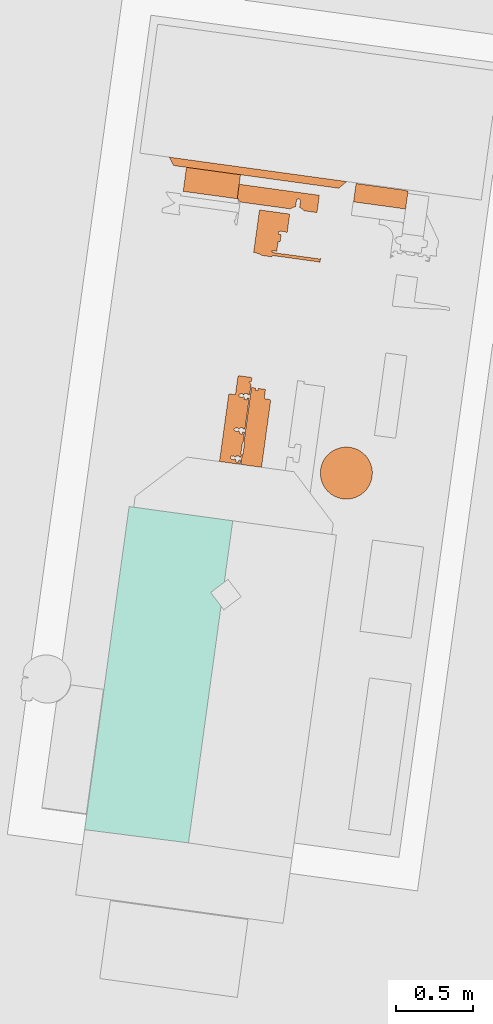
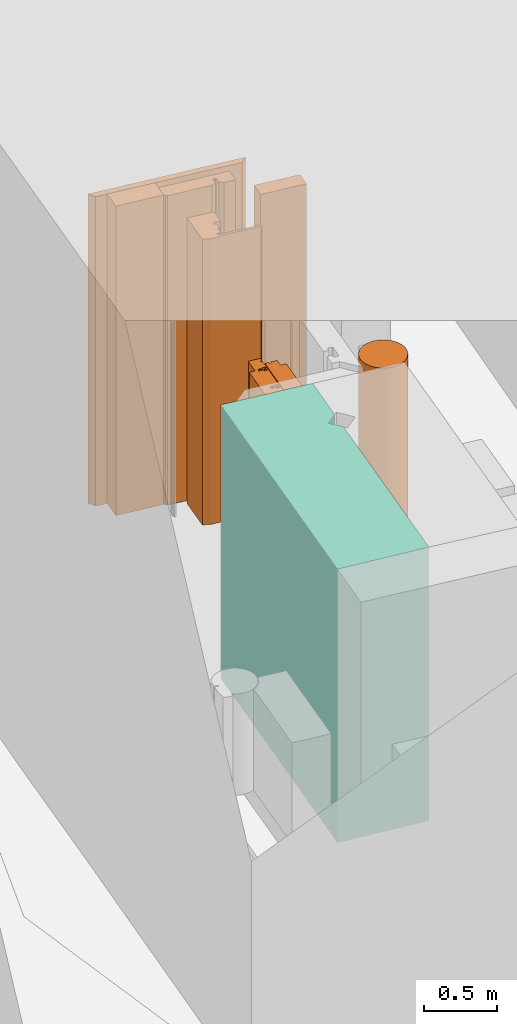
# Not in any storey, part 52 of 75: 8 proxies, plus 1 element that does not belong to this part.
"""IFC4 model written with IfcOpenShell, lengths in metres."""

from ifc_helpers import new_model, si_unit, direction, origin_with_axes, place, context, subcontext, project, spatial, triangles, element, aggregate, save


model = new_model("IFC4")

# Units and contexts
model_context = context("Model", 3, precision=1e-05, world=origin_with_axes(), true_north=direction((0.0, 1.0)))
body_context = subcontext(model_context, "Body", "Model", "MODEL_VIEW")
ifc_project = project(units=[si_unit("AREAUNIT", "SQUARE_METRE"), si_unit("VOLUMEUNIT", "CUBIC_METRE"), si_unit("LENGTHUNIT", "METRE")], contexts=[model_context])

# Site
site_placement = place(None, origin_with_axes())
site = spatial("IfcSite", under=ifc_project, at=site_placement, Name="Parcela industrial Jinhong")

# Compressor, proxies
compressor_placement = place(site_placement, origin_with_axes())
compressor = element("IfcCompressor", 1, at=compressor_placement, inside=site, Name="Compresor de aire AC1001B · Carcasa principal · región CAD 1", ObjectType="Envolvente de equipo", PredefinedType="USERDEFINED", context=body_context, shape_type="Tessellation", body=[
    triangles([(55.863177, 72.357937, 3.95), (55.187335, 72.450855, 3.95), (55.808192, 71.957999, 3.95), (55.187335, 72.450855, 1.65), (55.863177, 72.357937, 1.65), (55.808192, 71.957999, 1.65), (54.897683, 70.344073, 3.95), (55.574466, 70.257991, 3.95), (55.574466, 70.257991, 1.65), (54.897683, 70.344073, 1.65), (55.719055, 71.89041, 3.95), (55.786644, 71.801273, 3.95), (55.786644, 71.801273, 1.65), (55.719055, 71.89041, 1.65)], [[1, 2, 3], [4, 5, 6], [2, 7, 8], [9, 10, 4], [8, 12, 11], [13, 9, 14], [3, 2, 11], [4, 6, 14], [2, 8, 11], [14, 9, 4], [4, 10, 7], [4, 7, 2], [10, 9, 8], [10, 8, 7], [9, 13, 12], [9, 12, 8], [11, 13, 14], [11, 12, 13], [14, 6, 3], [14, 3, 11], [6, 5, 1], [1, 3, 6], [5, 4, 2], [5, 2, 1]], closed=True),
])
proxy_1_placement = place(compressor_placement, origin_with_axes())
proxy_1 = element("IfcBuildingElementProxy", 2, at=proxy_1_placement, Name="Compresor de aire AC1001B · Cuerpo de equipo · región CAD 14", context=body_context, shape_type="Tessellation", body=[
    triangles([(55.978528, 73.266694, 3.55), (55.971008, 73.263388, 3.55), (55.978052, 73.263227, 3.55), (55.971008, 73.263388, 1.65), (55.978528, 73.266694, 1.65), (55.978052, 73.263227, 1.65), (55.988442, 73.288144, 3.55), (55.979444, 73.267477, 3.55), (55.985487, 73.266646, 3.55), (55.988442, 73.288144, 1.65), (55.985487, 73.266646, 1.65), (55.979444, 73.267477, 1.65), (55.984768, 73.29299, 3.55), (55.904622, 73.304008, 3.55), (55.987551, 73.288267, 3.55), (55.904622, 73.304008, 1.65), (55.984768, 73.29299, 1.65), (55.987551, 73.288267, 1.65), (55.898324, 73.30225, 3.55), (55.897201, 73.300688, 3.55), (55.897201, 73.300688, 1.65), (55.898324, 73.30225, 1.65), (55.880625, 73.180123, 3.55), (55.844465, 73.185094, 3.55), (55.839082, 73.184118, 3.55), (55.839082, 73.184118, 1.65), (55.844465, 73.185094, 1.65), (55.880625, 73.180123, 1.65), (55.837067, 73.182679, 3.55), (55.77681, 72.744402, 3.55), (55.77681, 72.744402, 1.65), (55.837067, 73.182679, 1.65), (55.914811, 72.752582, 3.55), (55.905399, 72.753876, 3.55), (55.911147, 72.725933, 3.55), (55.905399, 72.753876, 1.65), (55.914811, 72.752582, 1.65), (55.911147, 72.725933, 1.65), (55.905168, 72.752192, 3.55), (55.9017, 72.752668, 3.55), (55.900038, 72.740582, 3.55), (55.9017, 72.752668, 1.65), (55.905168, 72.752192, 1.65), (55.900038, 72.740582, 1.65), (55.883571, 72.755161, 3.55), (55.879542, 72.757431, 3.55), (55.881909, 72.743075, 3.55), (55.879542, 72.757431, 1.65), (55.883571, 72.755161, 1.65), (55.881909, 72.743075, 1.65), (55.880019, 72.760898, 3.55), (55.873393, 72.761809, 3.55), (55.873393, 72.761809, 1.65), (55.880019, 72.760898, 1.65), (55.862733, 72.75631, 3.55), (55.858045, 72.760386, 3.55), (55.852001, 72.761217, 3.55), (55.852001, 72.761217, 1.65), (55.858045, 72.760386, 1.65), (55.862733, 72.75631, 1.65), (55.862575, 72.78086, 3.55), (55.854494, 72.779347, 3.55), (55.860537, 72.778516, 3.55), (55.854494, 72.779347, 1.65), (55.862575, 72.78086, 1.65), (55.860537, 72.778516, 1.65), (55.881681, 72.772984, 3.55), (55.872086, 72.779553, 3.55), (55.874746, 72.773938, 3.55), (55.872086, 72.779553, 1.65), (55.881681, 72.772984, 1.65), (55.874746, 72.773938, 1.65), (55.887357, 72.782702, 3.55), (55.882266, 72.777244, 3.55), (55.886526, 72.776659, 3.55), (55.887357, 72.782702, 1.65), (55.886526, 72.776659, 1.65), (55.882266, 72.777244, 1.65), (55.905487, 72.780209, 3.55), (55.904656, 72.774166, 3.55), (55.908123, 72.773689, 3.55), (55.905487, 72.780209, 1.65), (55.908123, 72.773689, 1.65), (55.904656, 72.774166, 1.65), (55.917426, 72.771603, 3.55), (55.908014, 72.772897, 3.55), (55.908014, 72.772897, 1.65), (55.917426, 72.771603, 1.65), (55.920136, 72.791318, 3.55), (55.915876, 72.791903, 3.55), (55.915876, 72.791903, 1.65), (55.920136, 72.791318, 1.65), (55.940022, 72.935957, 3.55), (55.926773, 72.871158, 3.55), (55.931032, 72.870572, 3.55), (55.940022, 72.935957, 1.65), (55.931032, 72.870572, 1.65), (55.926773, 72.871158, 1.65), (55.93061, 72.937251, 3.55), (55.926911, 72.936043, 3.55), (55.926911, 72.936043, 1.65), (55.93061, 72.937251, 1.65), (55.908782, 72.938536, 3.55), (55.904754, 72.940806, 3.55), (55.90712, 72.92645, 3.55), (55.904754, 72.940806, 1.65), (55.908782, 72.938536, 1.65), (55.90712, 72.92645, 1.65), (55.90523, 72.944273, 3.55), (55.89857, 72.945189, 3.55), (55.89857, 72.945189, 1.65), (55.90523, 72.944273, 1.65), (55.887944, 72.939685, 3.55), (55.883256, 72.943761, 3.55), (55.877213, 72.944592, 3.55), (55.877213, 72.944592, 1.65), (55.883256, 72.943761, 1.65), (55.887944, 72.939685, 1.65), (55.887787, 72.964235, 3.55), (55.879705, 72.962722, 3.55), (55.885748, 72.961891, 3.55), (55.879705, 72.962722, 1.65), (55.887787, 72.964235, 1.65), (55.885748, 72.961891, 1.65), (55.906892, 72.95636, 3.55), (55.897297, 72.962928, 3.55), (55.899957, 72.957313, 3.55), (55.897297, 72.962928, 1.65), (55.906892, 72.95636, 1.65), (55.899957, 72.957313, 1.65), (55.912569, 72.966077, 3.55), (55.907478, 72.960619, 3.55), (55.911738, 72.960034, 3.55), (55.912569, 72.966077, 1.65), (55.911738, 72.960034, 1.65), (55.907478, 72.960619, 1.65), (55.930698, 72.963584, 3.55), (55.929867, 72.957541, 3.55), (55.933335, 72.957065, 3.55), (55.930698, 72.963584, 1.65), (55.933335, 72.957065, 1.65), (55.929867, 72.957541, 1.65), (55.942637, 72.954978, 3.55), (55.933226, 72.956272, 3.55), (55.933226, 72.956272, 1.65), (55.942637, 72.954978, 1.65), (55.970681, 73.158959, 3.55), (55.96127, 73.160253, 3.55), (55.96127, 73.160253, 1.65), (55.970681, 73.158959, 1.65), (55.957571, 73.159046, 3.55), (55.955909, 73.146959, 3.55), (55.955909, 73.146959, 1.65), (55.957571, 73.159046, 1.65), (55.939442, 73.161538, 3.55), (55.935413, 73.163808, 3.55), (55.93778, 73.149452, 3.55), (55.935413, 73.163808, 1.65), (55.939442, 73.161538, 1.65), (55.93778, 73.149452, 1.65), (55.935767, 73.166384, 3.55), (55.929107, 73.1673, 3.55), (55.929107, 73.1673, 1.65), (55.935767, 73.166384, 1.65), (55.914599, 73.165862, 3.55), (55.908556, 73.166693, 3.55), (55.915245, 73.163956, 3.55), (55.908556, 73.166693, 1.65), (55.914599, 73.165862, 1.65), (55.915245, 73.163956, 1.65), (55.908665, 73.167486, 3.55), (55.906089, 73.16784, 3.55), (55.906089, 73.16784, 1.65), (55.908665, 73.167486, 1.65), (55.917323, 73.185676, 3.55), (55.910242, 73.184832, 3.55), (55.9172, 73.184784, 3.55), (55.910242, 73.184832, 1.65), (55.917323, 73.185676, 1.65), (55.9172, 73.184784, 1.65), (55.937429, 73.17847, 3.55), (55.927834, 73.185038, 3.55), (55.930494, 73.179424, 3.55), (55.927834, 73.185038, 1.65), (55.937429, 73.17847, 1.65), (55.930494, 73.179424, 1.65), (55.943228, 73.189079, 3.55), (55.938137, 73.183622, 3.55), (55.942397, 73.183036, 3.55), (55.943228, 73.189079, 1.65), (55.942397, 73.183036, 1.65), (55.938137, 73.183622, 1.65), (55.961357, 73.186587, 3.55), (55.960527, 73.180543, 3.55), (55.963994, 73.180067, 3.55), (55.961357, 73.186587, 1.65), (55.963994, 73.180067, 1.65), (55.960527, 73.180543, 1.65), (55.973174, 73.177089, 3.55), (55.963762, 73.178383, 3.55), (55.963762, 73.178383, 1.65), (55.973174, 73.177089, 1.65), (55.980161, 73.227911, 3.55), (55.974118, 73.228741, 3.55), (55.974118, 73.228741, 1.65), (55.980161, 73.227911, 1.65), (55.983702, 73.253668, 3.55), (55.974227, 73.229534, 3.55), (55.98027, 73.228703, 3.55), (55.983702, 73.253668, 1.65), (55.98027, 73.228703, 1.65), (55.974227, 73.229534, 1.65), (55.982811, 73.253791, 3.55), (55.982457, 73.251215, 3.55), (55.982457, 73.251215, 1.65), (55.982811, 73.253791, 1.65), (55.976989, 73.2555, 3.55), (55.974414, 73.255854, 3.55), (55.976635, 73.252924, 3.55), (55.974414, 73.255854, 1.65), (55.976989, 73.2555, 1.65), (55.976635, 73.252924, 1.65), (55.918481, 73.161796, 3.55), (55.918481, 73.161796, 1.65), (55.922036, 73.187652, 3.55), (55.922036, 73.187652, 1.65), (55.925404, 73.187189, 3.55), (55.925404, 73.187189, 1.65), (55.977305, 73.251923, 3.55), (55.977305, 73.251923, 1.65), (55.871938, 72.759385, 3.55), (55.871938, 72.759385, 1.65), (55.867958, 72.781836, 3.55), (55.867958, 72.781836, 1.65), (55.897149, 72.94276, 3.55), (55.897149, 72.94276, 1.65), (55.89317, 72.965211, 3.55), (55.89317, 72.965211, 1.65), (55.927686, 73.16487, 3.55), (55.927686, 73.16487, 1.65), (55.971178, 73.258015, 3.55), (55.971178, 73.258015, 1.65), (55.869008, 72.757163, 3.55), (55.869008, 72.757163, 1.65), (55.92525, 72.923957, 3.55), (55.92525, 72.923957, 1.65), (55.894219, 72.940538, 3.55), (55.894219, 72.940538, 1.65), (55.924756, 73.162649, 3.55), (55.924756, 73.162649, 1.65), (55.970409, 73.259029, 3.55), (55.970409, 73.259029, 1.65), (55.865309, 72.755956, 3.55), (55.865309, 72.755956, 1.65), (55.89052, 72.939331, 3.55), (55.89052, 72.939331, 1.65), (55.921057, 73.161441, 3.55), (55.921057, 73.161441, 1.65), (55.874992, 72.960745, 3.55), (55.874992, 72.960745, 1.65), (55.905529, 73.182856, 3.55), (55.905529, 73.182856, 1.65), (55.850341, 72.762354, 3.55), (55.850341, 72.762354, 1.65), (55.849781, 72.77737, 3.55), (55.849781, 72.77737, 1.65), (55.848119, 72.765284, 3.55), (55.848119, 72.765284, 1.65), (55.847266, 72.771559, 3.55), (55.847266, 72.771559, 1.65), (55.872477, 72.954934, 3.55), (55.872477, 72.954934, 1.65), (55.903014, 73.177044, 3.55), (55.903014, 73.177044, 1.65), (55.903867, 73.17077, 3.55), (55.903867, 73.17077, 1.65), (55.873221, 72.947866, 3.55), (55.873221, 72.947866, 1.65)], [[1, 2, 3], [4, 5, 6], [7, 8, 9], [10, 11, 12], [13, 14, 15], [16, 17, 18], [14, 19, 20], [21, 22, 16], [23, 24, 25], [26, 27, 28], [25, 29, 30], [31, 32, 26], [33, 34, 35], [36, 37, 38], [39, 40, 41], [42, 43, 44], [45, 46, 47], [48, 49, 50], [46, 51, 52], [53, 54, 48], [55, 56, 57], [58, 59, 60], [61, 62, 63], [64, 65, 66], [67, 68, 69], [70, 71, 72], [73, 74, 75], [76, 77, 78], [79, 80, 81], [82, 83, 84], [86, 85, 81], [87, 83, 88], [85, 89, 90], [91, 92, 88], [93, 94, 95], [96, 97, 98], [93, 99, 100], [101, 102, 96], [103, 104, 105], [106, 107, 108], [104, 109, 110], [111, 112, 106], [113, 114, 115], [116, 117, 118], [119, 120, 121], [122, 123, 124], [125, 126, 127], [128, 129, 130], [131, 132, 133], [134, 135, 136], [137, 138, 139], [140, 141, 142], [144, 143, 139], [145, 141, 146], [143, 147, 148], [149, 150, 146], [148, 151, 152], [153, 154, 149], [155, 156, 157], [158, 159, 160], [156, 161, 162], [163, 164, 158], [165, 166, 167], [168, 169, 170], [166, 171, 172], [173, 174, 168], [175, 176, 177], [178, 179, 180], [181, 182, 183], [184, 185, 186], [187, 188, 189], [190, 191, 192], [193, 194, 195], [196, 197, 198], [200, 199, 195], [201, 197, 202], [199, 203, 204], [205, 206, 202], [207, 208, 209], [210, 211, 212], [207, 213, 214], [215, 216, 210], [217, 218, 219], [220, 221, 222], [8, 2, 1], [5, 4, 12], [8, 7, 15], [12, 18, 10], [15, 14, 20], [21, 16, 18], [23, 25, 30], [31, 26, 28], [39, 35, 34], [43, 36, 38], [47, 46, 52], [50, 53, 48], [74, 68, 67], [71, 70, 78], [81, 85, 79], [83, 82, 88], [94, 93, 100], [98, 101, 96], [105, 104, 110], [108, 111, 106], [132, 126, 125], [129, 128, 136], [139, 143, 137], [141, 140, 146], [143, 148, 152], [153, 149, 146], [157, 156, 162], [160, 163, 158], [167, 166, 223], [170, 224, 168], [225, 176, 175], [179, 178, 226], [182, 181, 227], [228, 185, 184], [195, 199, 193], [197, 196, 202], [214, 208, 207], [215, 210, 212], [219, 218, 229], [222, 230, 220], [2, 8, 15], [18, 12, 4], [15, 20, 23], [28, 21, 18], [41, 35, 39], [38, 44, 43], [231, 47, 52], [50, 232, 53], [74, 233, 68], [70, 234, 78], [79, 85, 90], [91, 88, 82], [94, 100, 90], [98, 91, 101], [235, 105, 110], [108, 236, 111], [132, 237, 126], [128, 238, 136], [137, 143, 152], [153, 146, 140], [239, 157, 162], [160, 240, 163], [172, 223, 166], [168, 224, 173], [188, 227, 181], [185, 228, 192], [193, 199, 204], [205, 202, 196], [208, 214, 229], [230, 215, 212], [218, 241, 229], [230, 242, 220], [2, 15, 23], [28, 18, 4], [35, 41, 30], [38, 31, 44], [47, 231, 243], [244, 232, 50], [74, 73, 233], [78, 234, 76], [79, 90, 73], [82, 76, 91], [90, 100, 245], [246, 101, 91], [105, 235, 247], [248, 236, 108], [132, 131, 237], [136, 238, 134], [131, 137, 152], [153, 140, 134], [157, 239, 249], [250, 240, 160], [188, 187, 227], [192, 228, 190], [187, 193, 204], [205, 196, 190], [208, 229, 241], [242, 230, 212], [251, 2, 23], [28, 4, 252], [41, 47, 30], [31, 50, 44], [47, 243, 253], [254, 244, 50], [90, 233, 73], [76, 234, 91], [90, 245, 105], [108, 246, 91], [105, 247, 255], [256, 248, 108], [237, 131, 152], [134, 238, 153], [157, 249, 257], [258, 250, 160], [227, 187, 225], [226, 190, 228], [204, 208, 187], [205, 190, 212], [241, 251, 208], [242, 212, 252], [47, 253, 30], [31, 254, 50], [90, 61, 233], [234, 65, 91], [90, 105, 255], [256, 108, 91], [119, 237, 152], [238, 123, 153], [157, 257, 223], [224, 258, 160], [208, 225, 187], [190, 226, 212], [208, 251, 23], [212, 28, 252], [253, 55, 30], [31, 60, 254], [90, 62, 61], [65, 64, 91], [90, 255, 113], [118, 256, 91], [152, 120, 119], [123, 122, 153], [172, 157, 223], [224, 160, 173], [208, 176, 225], [226, 178, 212], [55, 57, 30], [31, 58, 60], [62, 90, 113], [118, 91, 64], [259, 120, 152], [122, 260, 153], [208, 261, 176], [178, 262, 212], [57, 263, 30], [31, 264, 58], [265, 62, 113], [64, 266, 118], [259, 152, 157], [160, 153, 260], [261, 208, 23], [28, 212, 262], [263, 267, 30], [264, 31, 268], [265, 113, 269], [266, 270, 118], [259, 157, 271], [260, 272, 160], [273, 261, 23], [28, 262, 274], [267, 269, 30], [268, 31, 270], [269, 113, 115], [116, 118, 270], [271, 157, 172], [173, 160, 272], [275, 273, 23], [28, 274, 276], [23, 30, 269], [270, 31, 28], [269, 115, 277], [270, 278, 116], [271, 172, 275], [276, 173, 272], [271, 269, 277], [278, 270, 272], [271, 275, 23], [272, 28, 276], [23, 269, 271], [272, 270, 28], [6, 5, 1], [1, 3, 6], [8, 5, 12], [8, 1, 5], [12, 11, 9], [12, 9, 8], [11, 10, 7], [7, 9, 11], [15, 10, 18], [15, 7, 10], [18, 17, 13], [13, 15, 18], [17, 16, 14], [17, 14, 13], [19, 16, 22], [19, 14, 16], [22, 21, 20], [22, 20, 19], [21, 28, 23], [21, 23, 20], [28, 27, 24], [28, 24, 23], [27, 26, 25], [27, 25, 24], [29, 26, 32], [29, 25, 26], [32, 31, 30], [32, 30, 29], [35, 31, 38], [35, 30, 31], [38, 37, 33], [33, 35, 38], [37, 36, 34], [37, 34, 33], [36, 43, 39], [36, 39, 34], [43, 42, 40], [43, 40, 39], [41, 42, 44], [42, 41, 40], [47, 44, 50], [47, 41, 44], [50, 49, 45], [45, 47, 50], [49, 48, 46], [49, 46, 45], [48, 54, 51], [48, 51, 46], [54, 53, 52], [54, 52, 51], [53, 232, 231], [53, 231, 52], [243, 232, 244], [243, 231, 232], [253, 244, 254], [253, 243, 244], [254, 60, 55], [254, 55, 253], [60, 59, 56], [60, 56, 55], [59, 58, 57], [59, 57, 56], [263, 58, 264], [263, 57, 58], [264, 268, 267], [264, 267, 263], [268, 270, 269], [268, 269, 267], [270, 266, 265], [270, 265, 269], [266, 64, 62], [266, 62, 265], [63, 64, 66], [64, 63, 62], [66, 65, 61], [61, 63, 66], [233, 65, 234], [233, 61, 65], [234, 70, 68], [234, 68, 233], [69, 70, 72], [70, 69, 68], [72, 71, 67], [67, 69, 72], [71, 78, 74], [71, 74, 67], [78, 77, 75], [78, 75, 74], [77, 76, 73], [73, 75, 77], [79, 76, 82], [79, 73, 76], [80, 82, 84], [82, 80, 79], [84, 83, 81], [84, 81, 80], [83, 87, 86], [83, 86, 81], [85, 87, 88], [85, 86, 87], [88, 92, 89], [88, 89, 85], [92, 91, 90], [92, 90, 89], [91, 98, 94], [91, 94, 90], [98, 97, 95], [98, 95, 94], [97, 96, 93], [93, 95, 97], [99, 96, 102], [99, 93, 96], [102, 101, 100], [102, 100, 99], [101, 246, 245], [101, 245, 100], [246, 108, 105], [246, 105, 245], [108, 107, 103], [103, 105, 108], [107, 106, 104], [107, 104, 103], [106, 112, 109], [106, 109, 104], [112, 111, 110], [112, 110, 109], [111, 236, 235], [111, 235, 110], [247, 236, 248], [247, 235, 236], [255, 248, 256], [255, 247, 248], [256, 118, 113], [256, 113, 255], [118, 117, 114], [118, 114, 113], [117, 116, 115], [117, 115, 114], [277, 116, 278], [277, 115, 116], [278, 272, 271], [278, 271, 277], [272, 260, 259], [272, 259, 271], [260, 122, 120], [260, 120, 259], [121, 122, 124], [122, 121, 120], [124, 123, 119], [119, 121, 124], [237, 123, 238], [237, 119, 123], [238, 128, 126], [238, 126, 237], [127, 128, 130], [128, 127, 126], [130, 129, 125], [125, 127, 130], [129, 136, 132], [129, 132, 125], [136, 135, 133], [136, 133, 132], [135, 134, 131], [131, 133, 135], [137, 134, 140], [137, 131, 134], [138, 140, 142], [140, 138, 137], [142, 141, 139], [142, 139, 138], [141, 145, 144], [141, 144, 139], [143, 145, 146], [143, 144, 145], [146, 150, 147], [146, 147, 143], [150, 149, 148], [150, 148, 147], [151, 149, 154], [151, 148, 149], [154, 153, 152], [154, 152, 151], [157, 153, 160], [157, 152, 153], [160, 159, 155], [155, 157, 160], [159, 158, 156], [159, 156, 155], [158, 164, 161], [158, 161, 156], [164, 163, 162], [164, 162, 161], [163, 240, 239], [163, 239, 162], [249, 240, 250], [249, 239, 240], [257, 250, 258], [257, 249, 250], [258, 224, 223], [258, 223, 257], [224, 170, 167], [224, 167, 223], [170, 169, 165], [165, 167, 170], [169, 168, 166], [169, 166, 165], [168, 174, 171], [168, 171, 166], [174, 173, 172], [174, 172, 171], [173, 276, 275], [173, 275, 172], [276, 274, 273], [276, 273, 275], [274, 262, 261], [274, 261, 273], [262, 178, 176], [262, 176, 261], [177, 178, 180], [178, 177, 176], [180, 179, 175], [175, 177, 180], [225, 179, 226], [225, 175, 179], [227, 226, 228], [227, 225, 226], [228, 184, 182], [228, 182, 227], [183, 184, 186], [184, 183, 182], [186, 185, 181], [181, 183, 186], [185, 192, 188], [185, 188, 181], [192, 191, 189], [192, 189, 188], [191, 190, 187], [187, 189, 191], [193, 190, 196], [193, 187, 190], [194, 196, 198], [196, 194, 193], [198, 197, 195], [198, 195, 194], [197, 201, 200], [197, 200, 195], [199, 201, 202], [199, 200, 201], [202, 206, 203], [202, 203, 199], [206, 205, 204], [206, 204, 203], [205, 212, 208], [205, 208, 204], [212, 211, 209], [212, 209, 208], [211, 210, 207], [207, 209, 211], [213, 210, 216], [213, 207, 210], [216, 215, 214], [216, 214, 213], [229, 215, 230], [229, 214, 215], [230, 222, 219], [230, 219, 229], [222, 221, 217], [217, 219, 222], [221, 220, 218], [221, 218, 217], [241, 220, 242], [241, 218, 220], [242, 252, 251], [242, 251, 241], [252, 4, 2], [252, 2, 251], [3, 4, 6], [4, 3, 2]], closed=True),
])
proxy_2_placement = place(compressor_placement, origin_with_axes())
proxy_2 = element("IfcBuildingElementProxy", 3, at=proxy_2_placement, Name="Compresor de aire AC1001B · Cuerpo de equipo · región CAD 15", context=body_context, shape_type="Tessellation", body=[
    triangles([(56.030983, 73.220923, 3.55), (56.028053, 73.218702, 3.55), (56.026446, 73.207012, 3.55), (56.028053, 73.218702, 1.65), (56.030983, 73.220923, 1.65), (56.026446, 73.207012, 1.65), (56.012854, 73.223416, 3.55), (56.011784, 73.209027, 3.55), (56.013391, 73.220718, 3.55), (56.011784, 73.209027, 1.65), (56.012854, 73.223416, 1.65), (56.013391, 73.220718, 1.65), (55.985313, 73.227202, 3.55), (55.936184, 72.869864, 3.55), (55.936184, 72.869864, 1.65), (55.985313, 73.227202, 1.65), (55.929647, 72.79001, 3.55), (55.925288, 72.790609, 3.55), (55.916298, 72.725224, 3.55), (55.925288, 72.790609, 1.65), (55.929647, 72.79001, 1.65), (55.916298, 72.725224, 1.65), (56.110891, 73.145032, 3.55), (56.050635, 72.706755, 3.55), (56.050635, 72.706755, 1.65), (56.110891, 73.145032, 1.65), (56.104519, 73.14934, 3.55), (56.068359, 73.154312, 3.55), (56.068359, 73.154312, 1.65), (56.104519, 73.14934, 1.65), (56.076654, 73.214644, 3.55), (56.076654, 73.214644, 1.65), (55.940543, 72.869264, 3.55), (55.940543, 72.869264, 1.65)], [[1, 2, 3], [4, 5, 6], [7, 8, 9], [10, 11, 12], [7, 13, 14], [15, 16, 11], [17, 18, 19], [20, 21, 22], [19, 24, 23], [25, 22, 26], [23, 27, 28], [29, 30, 26], [28, 31, 1], [29, 5, 32], [8, 7, 14], [10, 15, 11], [17, 19, 23], [21, 26, 22], [3, 28, 1], [29, 6, 5], [3, 8, 14], [15, 10, 6], [33, 17, 23], [26, 21, 34], [14, 28, 3], [6, 29, 15], [14, 33, 23], [34, 15, 26], [23, 28, 14], [15, 29, 26], [8, 6, 10], [8, 3, 6], [9, 10, 12], [10, 9, 8], [12, 11, 7], [7, 9, 12], [13, 11, 16], [13, 7, 11], [16, 15, 14], [16, 14, 13], [33, 15, 34], [33, 14, 15], [34, 21, 17], [34, 17, 33], [21, 20, 18], [21, 18, 17], [19, 20, 22], [20, 19, 18], [24, 22, 25], [24, 19, 22], [23, 25, 26], [23, 24, 25], [27, 26, 30], [27, 23, 26], [30, 29, 28], [30, 28, 27], [29, 32, 31], [29, 31, 28], [32, 5, 1], [32, 1, 31], [5, 4, 2], [5, 2, 1], [3, 4, 6], [4, 3, 2]], closed=True),
])
proxy_3_placement = place(compressor_placement, origin_with_axes())
proxy_3 = element("IfcBuildingElementProxy", 4, at=proxy_3_placement, Name="Compresor de aire AC1001B · Cuerpo de equipo · región CAD 17", context=body_context, shape_type="Tessellation", body=[
    triangles([(55.900842, 74.456362, 4.25), (55.899671, 74.447842, 4.25), (55.911242, 74.436561, 4.25), (55.900842, 74.456362, 1.65), (55.911242, 74.436561, 1.65), (55.899671, 74.447842, 1.65), (56.248815, 74.397115, 4.25), (56.239256, 74.391464, 4.25), (56.239256, 74.391464, 1.65), (56.248815, 74.397115, 1.65), (56.278192, 74.444859, 4.25), (56.259156, 74.40185, 4.25), (56.272866, 74.406123, 4.25), (56.278192, 74.444859, 1.65), (56.272866, 74.406123, 1.65), (56.259156, 74.40185, 1.65), (56.30494, 74.441181, 4.25), (56.299615, 74.402445, 4.25), (56.310771, 74.394754, 4.25), (56.30494, 74.441181, 1.65), (56.310771, 74.394754, 1.65), (56.299615, 74.402445, 1.65), (56.412328, 74.367669, 4.25), (56.319451, 74.387404, 4.25), (56.32713, 74.379383, 4.25), (56.319451, 74.387404, 1.65), (56.412328, 74.367669, 1.65), (56.32713, 74.379383, 1.65), (56.427828, 74.480409, 4.25), (55.905244, 74.552256, 4.25), (55.892223, 74.457547, 4.25), (55.905244, 74.552256, 1.65), (56.427828, 74.480409, 1.65), (55.892223, 74.457547, 1.65), (56.303988, 74.447469, 4.25), (56.303988, 74.447469, 1.65), (56.279914, 74.450779, 4.25), (56.279914, 74.450779, 1.65), (56.282967, 74.453892, 4.25), (56.282967, 74.453892, 1.65), (56.301889, 74.451291, 4.25), (56.301889, 74.451291, 1.65), (56.287703, 74.456774, 4.25), (56.287703, 74.456774, 1.65), (56.298105, 74.455344, 4.25), (56.298105, 74.455344, 1.65), (56.292964, 74.456858, 4.25), (56.292964, 74.456858, 1.65)], [[1, 2, 3], [4, 5, 6], [8, 7, 3], [9, 5, 10], [11, 12, 13], [14, 15, 16], [17, 18, 19], [20, 21, 22], [23, 24, 25], [26, 27, 28], [29, 30, 31], [32, 33, 34], [3, 7, 1], [5, 4, 10], [7, 12, 11], [16, 10, 14], [17, 19, 24], [20, 26, 21], [29, 24, 23], [27, 26, 33], [29, 31, 1], [34, 33, 4], [7, 11, 1], [10, 4, 14], [24, 35, 17], [20, 36, 26], [11, 37, 1], [14, 4, 38], [29, 35, 24], [26, 36, 33], [37, 39, 1], [38, 4, 40], [35, 29, 41], [36, 42, 33], [39, 43, 1], [40, 4, 44], [41, 29, 45], [42, 46, 33], [29, 1, 43], [44, 4, 33], [45, 29, 47], [46, 48, 33], [29, 43, 47], [48, 44, 33], [8, 5, 9], [8, 3, 5], [7, 9, 10], [7, 8, 9], [12, 10, 16], [12, 7, 10], [16, 15, 13], [16, 13, 12], [15, 14, 11], [11, 13, 15], [14, 38, 37], [14, 37, 11], [38, 40, 39], [38, 39, 37], [43, 40, 44], [43, 39, 40], [47, 44, 48], [47, 43, 44], [48, 46, 45], [48, 45, 47], [46, 42, 41], [46, 41, 45], [42, 36, 35], [42, 35, 41], [36, 20, 17], [36, 17, 35], [18, 20, 22], [20, 18, 17], [22, 21, 19], [22, 19, 18], [24, 21, 26], [24, 19, 21], [25, 26, 28], [26, 25, 24], [28, 27, 23], [23, 25, 28], [27, 33, 29], [27, 29, 23], [33, 32, 30], [33, 30, 29], [31, 32, 34], [32, 31, 30], [34, 4, 1], [34, 1, 31], [2, 4, 6], [4, 2, 1], [6, 5, 3], [6, 3, 2]], closed=True),
])
proxy_4_placement = place(compressor_placement, origin_with_axes())
proxy_4 = element("IfcBuildingElementProxy", 5, at=proxy_4_placement, Name="Compresor de aire AC1001B · Cuerpo de equipo · región CAD 18", context=body_context, shape_type="Tessellation", body=[
    triangles([(56.605988, 74.569977, 4.25), (55.448774, 74.729077, 4.25), (56.555137, 74.526095, 4.25), (55.448774, 74.729077, 1.65), (56.605988, 74.569977, 1.65), (56.555137, 74.526095, 1.65), (55.477277, 74.674284, 4.25), (55.477277, 74.674284, 1.65)], [[1, 2, 3], [4, 5, 6], [3, 2, 7], [8, 4, 6], [4, 8, 7], [4, 7, 2], [8, 6, 3], [8, 3, 7], [6, 5, 1], [1, 3, 6], [5, 4, 2], [5, 2, 1]], closed=True),
])
proxy_5_placement = place(compressor_placement, origin_with_axes())
proxy_5 = element("IfcBuildingElementProxy", 6, at=proxy_5_placement, Name="Compresor de aire AC1001B · Cuerpo de equipo · región CAD 19", context=body_context, shape_type="Tessellation", body=[
    triangles([(55.91377, 74.614273, 4.25), (55.561583, 74.662694, 4.25), (55.892223, 74.457547, 4.25), (55.561583, 74.662694, 1.65), (55.91377, 74.614273, 1.65), (55.892223, 74.457547, 1.65), (55.540036, 74.505968, 4.25), (55.540036, 74.505968, 1.65)], [[1, 2, 3], [4, 5, 6], [3, 2, 7], [8, 4, 6], [4, 8, 7], [4, 7, 2], [8, 6, 3], [8, 3, 7], [6, 5, 1], [1, 3, 6], [5, 4, 2], [5, 2, 1]], closed=True),
])
proxy_6_placement = place(compressor_placement, origin_with_axes())
proxy_6 = element("IfcBuildingElementProxy", 7, at=proxy_6_placement, Name="Compresor de aire AC1001B · Cuerpo de equipo · región CAD 20", context=body_context, shape_type="Tessellation", body=[
    triangles([(56.234639, 74.35788, 4.05), (56.037494, 74.384985, 4.05), (55.999479, 74.108487, 4.05), (56.037494, 74.384985, 1.65), (56.234639, 74.35788, 1.65), (55.999479, 74.108487, 1.65), (56.119972, 74.078898, 4.05), (56.040206, 74.095619, 4.05), (56.055334, 74.087785, 4.05), (56.040206, 74.095619, 1.65), (56.119972, 74.078898, 1.65), (56.055334, 74.087785, 1.65), (56.428565, 74.045253, 4.05), (56.427503, 74.037526, 4.05), (56.429122, 74.037303, 4.05), (56.428565, 74.045253, 1.65), (56.429122, 74.037303, 1.65), (56.427503, 74.037526, 1.65), (56.437458, 74.066843, 4.05), (56.431521, 74.066751, 4.05), (56.431521, 74.066751, 1.65), (56.437458, 74.066843, 1.65), (56.431289, 74.065067, 4.05), (56.192733, 74.097865, 4.05), (56.187459, 74.097681, 4.05), (56.187459, 74.097681, 1.65), (56.192733, 74.097865, 1.65), (56.431289, 74.065067, 1.65), (56.17292, 74.100589, 4.05), (56.123881, 74.107331, 4.05), (56.173689, 74.099575, 4.05), (56.123881, 74.107331, 1.65), (56.17292, 74.100589, 1.65), (56.173689, 74.099575, 1.65), (56.124113, 74.109015, 4.05), (56.121537, 74.109369, 4.05), (56.121537, 74.109369, 1.65), (56.124113, 74.109015, 1.65), (56.121659, 74.110261, 4.05), (56.118192, 74.110737, 4.05), (56.118192, 74.110737, 1.65), (56.121659, 74.110261, 1.65), (56.149371, 74.114324, 4.05), (56.146795, 74.114678, 4.05), (56.146452, 74.112181, 4.05), (56.146795, 74.114678, 1.65), (56.149371, 74.114324, 1.65), (56.146452, 74.112181, 1.65), (56.178509, 74.223473, 4.05), (56.160035, 74.178671, 4.05), (56.172121, 74.17701, 4.05), (56.178509, 74.223473, 1.65), (56.172121, 74.17701, 1.65), (56.160035, 74.178671, 1.65), (56.174653, 74.246815, 4.05), (56.163104, 74.245779, 4.05), (56.174298, 74.24424, 4.05), (56.163104, 74.245779, 1.65), (56.174653, 74.246815, 1.65), (56.174298, 74.24424, 1.65), (56.217393, 74.238315, 4.05), (56.203878, 74.242797, 4.05), (56.203523, 74.240222, 4.05), (56.203878, 74.242797, 1.65), (56.217393, 74.238315, 1.65), (56.203523, 74.240222, 1.65), (56.217747, 74.240891, 4.05), (56.21854, 74.240782, 4.05), (56.21854, 74.240782, 1.65), (56.217747, 74.240891, 1.65), (56.013482, 74.105349, 4.05), (56.013482, 74.105349, 1.65), (56.027025, 74.101065, 4.05), (56.027025, 74.101065, 1.65), (56.145234, 74.115801, 4.05), (56.145234, 74.115801, 1.65), (56.16038, 74.225965, 4.05), (56.16038, 74.225965, 1.65), (56.121157, 74.087517, 4.05), (56.121157, 74.087517, 1.65), (56.121953, 74.119002, 4.05), (56.121953, 74.119002, 1.65), (56.119254, 74.118465, 4.05), (56.119254, 74.118465, 1.65)], [[1, 2, 3], [4, 5, 6], [7, 8, 9], [10, 11, 12], [13, 14, 15], [16, 17, 18], [15, 19, 20], [21, 22, 17], [23, 24, 25], [26, 27, 28], [29, 30, 31], [32, 33, 34], [30, 35, 36], [37, 38, 32], [36, 39, 40], [41, 42, 37], [43, 44, 45], [46, 47, 48], [49, 50, 51], [52, 53, 54], [55, 56, 57], [58, 59, 60], [61, 62, 63], [64, 65, 66], [67, 68, 1], [5, 69, 70], [1, 3, 71], [5, 72, 6], [8, 7, 73], [74, 11, 10], [15, 20, 23], [28, 21, 17], [36, 40, 30], [37, 32, 41], [44, 43, 75], [76, 47, 46], [50, 49, 77], [54, 78, 52], [67, 62, 61], [65, 64, 70], [1, 71, 73], [74, 72, 5], [7, 79, 73], [74, 80, 11], [13, 15, 23], [16, 28, 17], [75, 43, 50], [47, 76, 54], [62, 67, 1], [5, 70, 64], [79, 13, 73], [74, 16, 80], [13, 23, 25], [26, 28, 16], [81, 75, 50], [54, 76, 82], [55, 62, 1], [5, 64, 59], [13, 25, 73], [74, 26, 16], [83, 81, 50], [54, 82, 84], [1, 56, 55], [59, 58, 5], [25, 31, 73], [74, 34, 26], [83, 50, 77], [54, 84, 78], [56, 1, 73], [58, 74, 5], [31, 30, 73], [74, 32, 34], [77, 56, 83], [78, 84, 58], [30, 40, 73], [74, 41, 32], [73, 83, 56], [58, 84, 74], [40, 83, 73], [74, 84, 41], [71, 6, 72], [71, 3, 6], [73, 72, 74], [73, 71, 72], [74, 10, 8], [74, 8, 73], [9, 10, 12], [10, 9, 8], [12, 11, 7], [7, 9, 12], [11, 80, 79], [11, 79, 7], [80, 16, 13], [80, 13, 79], [14, 16, 18], [16, 14, 13], [18, 17, 15], [18, 15, 14], [17, 22, 19], [17, 19, 15], [22, 21, 20], [22, 20, 19], [21, 28, 23], [21, 23, 20], [28, 27, 24], [28, 24, 23], [27, 26, 25], [27, 25, 24], [31, 26, 34], [31, 25, 26], [34, 33, 29], [29, 31, 34], [33, 32, 30], [33, 30, 29], [32, 38, 35], [32, 35, 30], [38, 37, 36], [38, 36, 35], [37, 42, 39], [37, 39, 36], [42, 41, 40], [42, 40, 39], [41, 84, 83], [41, 83, 40], [84, 82, 81], [84, 81, 83], [82, 76, 75], [82, 75, 81], [76, 46, 44], [76, 44, 75], [45, 46, 48], [46, 45, 44], [48, 47, 43], [43, 45, 48], [47, 54, 50], [47, 50, 43], [54, 53, 51], [54, 51, 50], [53, 52, 49], [49, 51, 53], [77, 52, 78], [77, 49, 52], [78, 58, 56], [78, 56, 77], [57, 58, 60], [58, 57, 56], [60, 59, 55], [55, 57, 60], [62, 59, 64], [62, 55, 59], [63, 64, 66], [64, 63, 62], [66, 65, 61], [61, 63, 66], [65, 70, 67], [65, 67, 61], [70, 69, 68], [70, 68, 67], [69, 5, 1], [69, 1, 68], [5, 4, 2], [5, 2, 1], [3, 4, 6], [4, 3, 2]], closed=True),
])
proxy_7_placement = place(compressor_placement, origin_with_axes())
proxy_7 = element("IfcBuildingElementProxy", 8, at=proxy_7_placement, Name="Compresor de aire AC1001B · Cuerpo de equipo · región CAD 24", context=body_context, shape_type="Tessellation", body=[
    triangles([(56.983553, 74.513727, 4.0), (56.66732, 74.557205, 4.0), (56.650867, 74.437531, 4.0), (56.66732, 74.557205, 1.65), (56.983553, 74.513727, 1.65), (56.650867, 74.437531, 1.65), (57.006152, 74.507088, 4.0), (56.990175, 74.390881, 4.0), (56.990175, 74.390881, 1.65), (57.006152, 74.507088, 1.65), (56.994957, 74.508627, 4.0), (56.994957, 74.508627, 1.65)], [[1, 2, 3], [4, 5, 6], [8, 7, 3], [9, 6, 10], [11, 1, 3], [6, 5, 12], [7, 11, 3], [6, 12, 10], [8, 6, 9], [8, 3, 6], [7, 9, 10], [7, 8, 9], [11, 10, 12], [11, 7, 10], [12, 5, 1], [12, 1, 11], [5, 4, 2], [5, 2, 1], [3, 4, 6], [4, 3, 2]], closed=True),
])
proxy_8_placement = place(compressor_placement, origin_with_axes())
proxy_8 = element("IfcBuildingElementProxy", 9, at=proxy_8_placement, Name="Compresor de aire AC1001B · Cuerpo de equipo · región CAD 25", context=body_context, shape_type="Tessellation", body=[
    triangles([(56.773587, 72.675293, 3.75), (56.765551, 72.616843, 3.75), (56.772144, 72.645714, 3.75), (56.765551, 72.616843, 1.65), (56.773587, 72.675293, 1.65), (56.772144, 72.645714, 1.65), (56.761121, 72.732928, 3.75), (56.769854, 72.704675, 3.75), (56.769854, 72.704675, 1.65), (56.761121, 72.732928, 1.65), (56.729744, 72.782968, 3.75), (56.747589, 72.759317, 3.75), (56.747589, 72.759317, 1.65), (56.729744, 72.782968, 1.65), (56.683138, 72.819153, 3.75), (56.707972, 72.80302, 3.75), (56.707972, 72.80302, 1.65), (56.683138, 72.819153, 1.65), (56.626969, 72.837172, 3.75), (56.65584, 72.830578, 3.75), (56.65584, 72.830578, 1.65), (56.626969, 72.837172, 1.65), (56.597389, 72.838614, 3.75), (56.568021, 72.83498, 3.75), (56.568021, 72.83498, 1.65), (56.597389, 72.838614, 1.65), (56.513379, 72.812715, 3.75), (56.539655, 72.826161, 3.75), (56.539655, 72.826161, 1.65), (56.513379, 72.812715, 1.65), (56.469563, 72.773013, 3.75), (56.489714, 72.794771, 3.75), (56.489714, 72.794771, 1.65), (56.469563, 72.773013, 1.65), (56.442105, 72.720867, 3.75), (56.453529, 72.748165, 3.75), (56.453529, 72.748165, 1.65), (56.442105, 72.720867, 1.65), (56.434069, 72.662417, 3.75), (56.435511, 72.691996, 3.75), (56.435511, 72.691996, 1.65), (56.434069, 72.662417, 1.65), (56.446422, 72.604696, 3.75), (56.437702, 72.633048, 3.75), (56.437702, 72.633048, 1.65), (56.446422, 72.604696, 1.65), (56.477912, 72.554742, 3.75), (56.459968, 72.578406, 3.75), (56.459968, 72.578406, 1.65), (56.477912, 72.554742, 1.65), (56.524517, 72.518557, 3.75), (56.499584, 72.534703, 3.75), (56.499584, 72.534703, 1.65), (56.524517, 72.518557, 1.65), (56.580687, 72.500538, 3.75), (56.551816, 72.507132, 3.75), (56.551816, 72.507132, 1.65), (56.580687, 72.500538, 1.65), (56.639634, 72.50273, 3.75), (56.610266, 72.499096, 3.75), (56.610266, 72.499096, 1.65), (56.639634, 72.50273, 1.65), (56.694276, 72.524995, 3.75), (56.667901, 72.511562, 3.75), (56.667901, 72.511562, 1.65), (56.694276, 72.524995, 1.65), (56.737979, 72.564611, 3.75), (56.717842, 72.542952, 3.75), (56.717842, 72.542952, 1.65), (56.737979, 72.564611, 1.65), (56.754027, 72.589558, 3.75), (56.754027, 72.589558, 1.65)], [[1, 2, 3], [4, 5, 6], [8, 7, 1], [9, 5, 10], [12, 11, 7], [13, 10, 14], [16, 15, 11], [17, 14, 18], [20, 19, 15], [21, 18, 22], [19, 23, 24], [25, 26, 22], [28, 27, 24], [29, 25, 30], [32, 31, 27], [33, 30, 34], [36, 35, 31], [37, 34, 38], [40, 39, 35], [41, 38, 42], [44, 43, 39], [45, 42, 46], [48, 47, 43], [49, 46, 50], [52, 51, 47], [53, 50, 54], [56, 55, 51], [57, 54, 58], [60, 59, 55], [61, 58, 62], [64, 63, 59], [65, 62, 66], [68, 67, 63], [69, 66, 70], [71, 2, 67], [70, 4, 72], [7, 2, 1], [5, 4, 10], [11, 15, 7], [14, 10, 18], [15, 19, 24], [25, 22, 18], [27, 31, 24], [30, 25, 34], [35, 39, 31], [38, 34, 42], [43, 47, 39], [46, 42, 50], [51, 55, 47], [54, 50, 58], [59, 63, 55], [62, 58, 66], [67, 2, 63], [66, 4, 70], [2, 7, 15], [18, 10, 4], [15, 24, 31], [34, 25, 18], [31, 39, 47], [50, 42, 34], [55, 63, 47], [58, 50, 66], [63, 2, 15], [4, 66, 18], [15, 31, 47], [50, 34, 18], [47, 63, 15], [18, 66, 50], [5, 9, 8], [5, 8, 1], [7, 9, 10], [7, 8, 9], [10, 13, 12], [10, 12, 7], [11, 13, 14], [11, 12, 13], [16, 14, 17], [16, 11, 14], [15, 17, 18], [15, 16, 17], [20, 18, 21], [20, 15, 18], [19, 21, 22], [19, 20, 21], [23, 22, 26], [23, 19, 22], [26, 25, 24], [26, 24, 23], [28, 25, 29], [28, 24, 25], [27, 29, 30], [27, 28, 29], [32, 30, 33], [32, 27, 30], [31, 33, 34], [31, 32, 33], [34, 37, 36], [34, 36, 31], [35, 37, 38], [35, 36, 37], [38, 41, 40], [38, 40, 35], [39, 41, 42], [39, 40, 41], [42, 45, 44], [42, 44, 39], [43, 45, 46], [43, 44, 45], [46, 49, 48], [46, 48, 43], [47, 49, 50], [47, 48, 49], [52, 50, 53], [52, 47, 50], [51, 53, 54], [51, 52, 53], [56, 54, 57], [56, 51, 54], [55, 57, 58], [55, 56, 57], [60, 58, 61], [60, 55, 58], [59, 61, 62], [59, 60, 61], [64, 62, 65], [64, 59, 62], [63, 65, 66], [63, 64, 65], [68, 66, 69], [68, 63, 66], [67, 69, 70], [67, 68, 69], [70, 72, 71], [70, 71, 67], [72, 4, 2], [72, 2, 71], [3, 4, 6], [4, 3, 2], [6, 5, 1], [1, 3, 6]], closed=True),
])
aggregate(compressor, [proxy_1, proxy_2, proxy_3, proxy_4, proxy_5, proxy_6, proxy_7, proxy_8])

save(model, "model.ifc")
